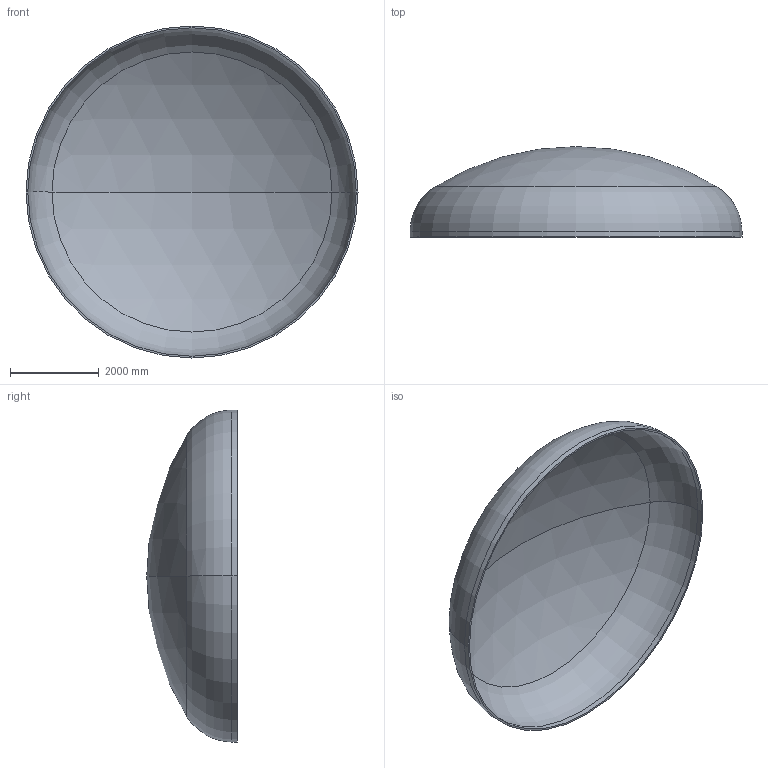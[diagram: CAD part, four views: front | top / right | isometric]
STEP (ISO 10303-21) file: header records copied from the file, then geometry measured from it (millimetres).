
FILE_DESCRIPTION (( 'STEP AP203' ), '1' );
FILE_NAME ('DIN 28013 Korbbogenform_-_Boden DIN 28013 - 7500 x 120 - I - s=40.step', '2016-07-04T10:53:46', ( '' ), ( '' ), 'SwSTEP 2.0', 'SolidWorks 2013', '' );
FILE_SCHEMA (( 'CONFIG_CONTROL_DESIGN' ));
Length unit declared in the file: millimetre
Products named in the file (1): DIN 28013 Korbbogenform_-_Boden DIN 28013 - 7500 x 120 - I - s=40
Bounding box: 7500 x 2043.45 x 7500 mm (x, y, z)
Volume: 2542844135.6 mm3; surface area: 128082958.9 mm2
Topology: 1 solids, 1 shells, 13 faces, 24 edges, 14 vertices
Faces by surface type: torus 4, cylinder 4, sphere 4, plane 1
Entity records: 407 total; most frequent: DIRECTION 72, CARTESIAN_POINT 52, ORIENTED_EDGE 48, AXIS2_PLACEMENT_3D 34, EDGE_CURVE 24, CIRCLE 20, EDGE_LOOP 14, VERTEX_POINT 14
